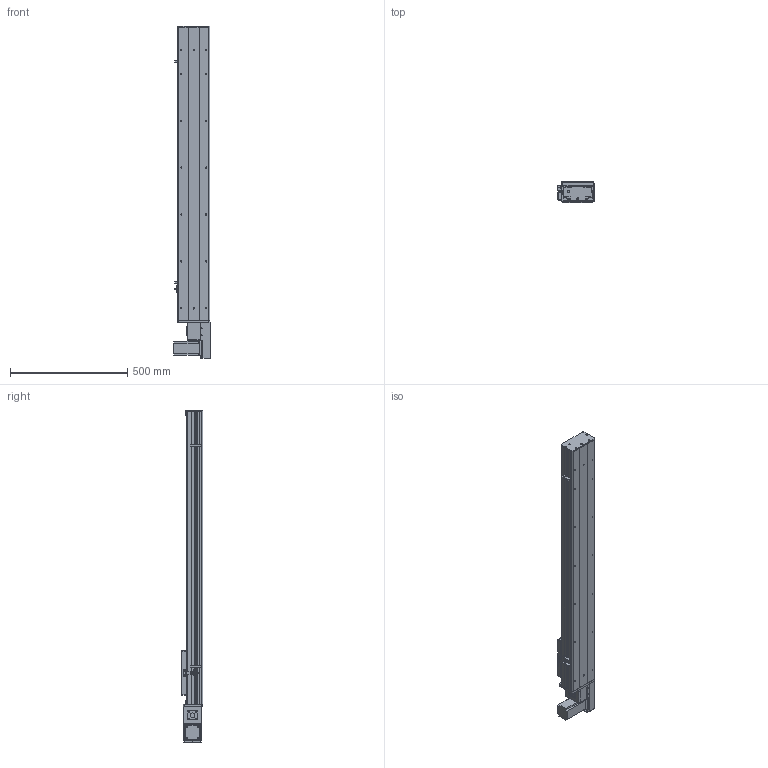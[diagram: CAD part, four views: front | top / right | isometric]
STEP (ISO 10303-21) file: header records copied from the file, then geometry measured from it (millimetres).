
FILE_DESCRIPTION (( 'STEP AP203' ), '1' );
FILE_NAME ('Y135CB-D90-S950-BL-P400W.STEP', '2020-02-17T09:03:40', ( '微软用户' ), ( '微软中国' ), 'SwSTEP 2.0', 'SolidWorks 2017', '' );
FILE_SCHEMA (( 'CONFIG_CONTROL_DESIGN' ));
Length unit declared in the file: millimetre
Products named in the file (18): C-雄赽釱--; Y135CB-耜裔; 0B-萇儂楊擘啣; Y135CB-D90-S950-BL-P400W; 135CB---遴掛极.-; san松下电机400不带刹车----; 35CB---喘謫眊楊擘啣; 5CB --掛极耜裔啣-; C-詩湍揤踡え-陔; Y10B--々湍喘謫眊--666; 135CB--詩湍-CE; Y10B-耜蚾蟀諉啣----; Y100-135俋离換覜ん--; Y俋欶BR----; Y135C-陔俋离換覜結え-; 0B-埴倛裔啣; 5C--俋欶; 0B-源倛裔啣
Assembly tree (21 placements, depth 2):
  Y135CB-D90-S950-BL-P400W
    Y135CB-耜裔
    135CB---遴掛极.-
    35CB---喘謫眊楊擘啣
    Y10B--々湍喘謫眊--666
    Y10B-耜蚾蟀諉啣----
    Y俋欶BR----
    0B-埴倛裔啣
    0B-源倛裔啣
    0B-萇儂楊擘啣
    san松下电机400不带刹车----
    5CB --掛极耜裔啣-  x2
    C-詩湍揤踡え-陔  x2
    135CB--詩湍-CE
    Y100-135俋离換覜ん--  x3
    Y135C-陔俋离換覜結え-
    5C--俋欶
    C-雄赽釱--
Bounding box: 157.5 x 91 x 1414.5 mm (x, y, z)
Volume: 4257399.8 mm3; surface area: 1665225.3 mm2
Topology: 21 solids, 21 shells, 945 faces, 2527 edges, 1674 vertices
Faces by surface type: cylinder 471, plane 458, cone 16
Entity records: 29341 total; most frequent: DIRECTION 4871, CARTESIAN_POINT 4812, ORIENTED_EDGE 4530, EDGE_CURVE 2265, AXIS2_PLACEMENT_3D 1773, VERTEX_POINT 1502, VECTOR 1325, LINE 1325
